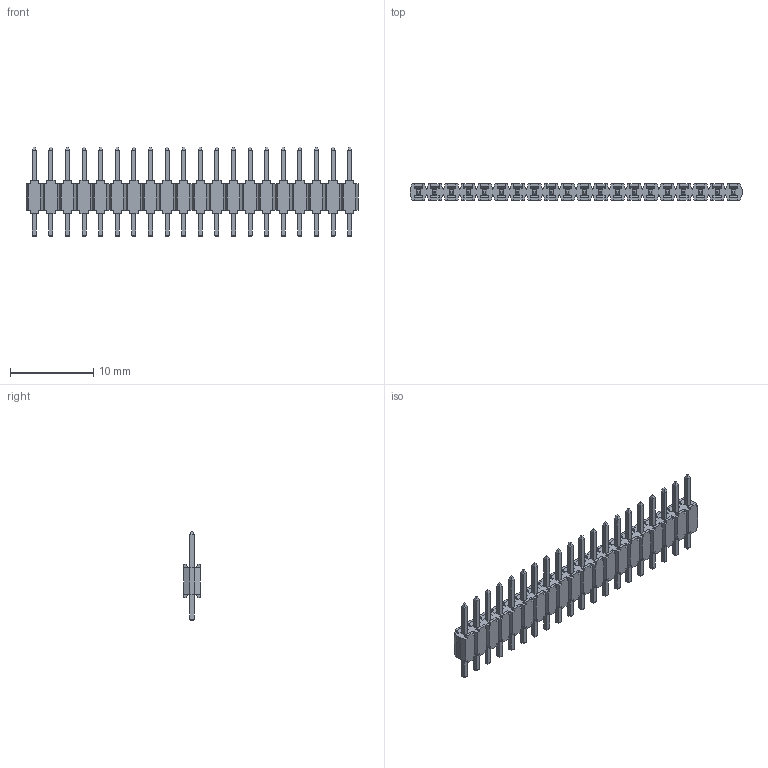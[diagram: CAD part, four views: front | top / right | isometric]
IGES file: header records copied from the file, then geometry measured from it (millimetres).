
Global section: file name: N:\GOLF_VI_2mm_UGII\9514XX_901XX06_AR\951420-9010806-AR.igs; native system: NX V3.0; preprocessor: UGS NX IGES V4.0; date: 20070314.113820; units: millimetre
Bounding box: 40 x 2 x 10.8 mm (x, y, z)
Surface area: 899.6 mm2 (no closed solid volume)
Topology: 0 solids, 0 shells, 804 faces, 4253 edges, 4253 vertices
Faces by surface type: bspline 804
